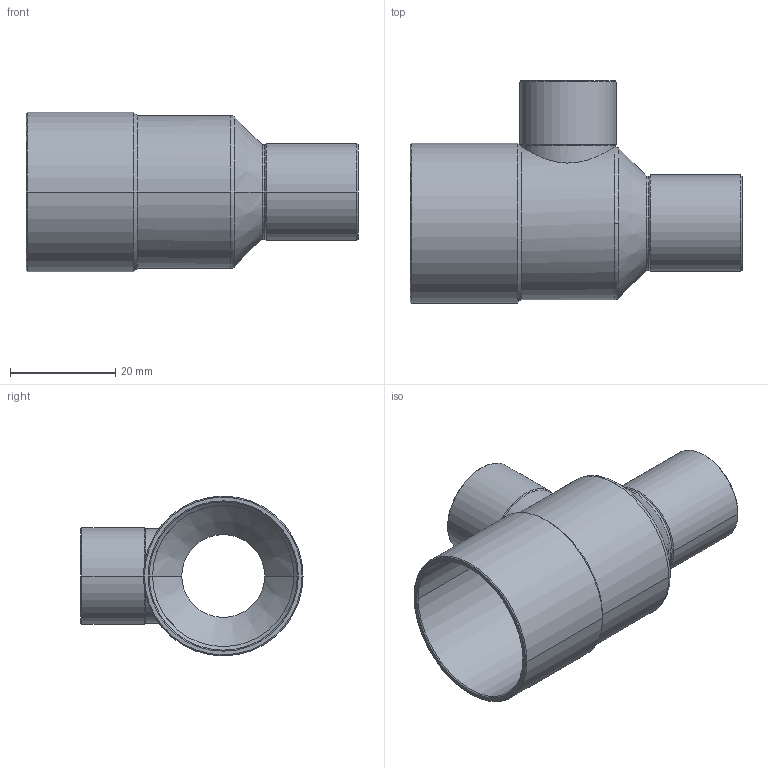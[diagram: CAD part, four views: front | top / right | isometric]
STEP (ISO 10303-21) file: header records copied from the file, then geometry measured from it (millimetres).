
FILE_DESCRIPTION((''),'2;1');
FILE_NAME('G:\Technics\CAD\Bauteile\15130\15130281616.stp','2005-11-03T13:42:40',('boden'),(''),'Autodesk Inventor 8','Autodesk Inventor 8','');
FILE_SCHEMA(('AUTOMOTIVE_DESIGN { 1 0 10303 214 1 1 1 1 }'));
Length unit declared in the file: millimetre
Products named in the file (1): 15130281616
Bounding box: 63 x 42.16 x 30.32 mm (x, y, z)
Volume: 6176.6 mm3; surface area: 11420.9 mm2
Topology: 1 solids, 1 shells, 58 faces, 129 edges, 72 vertices
Faces by surface type: cone 28, cylinder 24, plane 3, torus 2, bspline 1
Entity records: 1846 total; most frequent: CARTESIAN_POINT 518, DIRECTION 298, ORIENTED_EDGE 258, EDGE_CURVE 129, AXIS2_PLACEMENT_3D 123, VERTEX_POINT 72, CIRCLE 65, EDGE_LOOP 61
